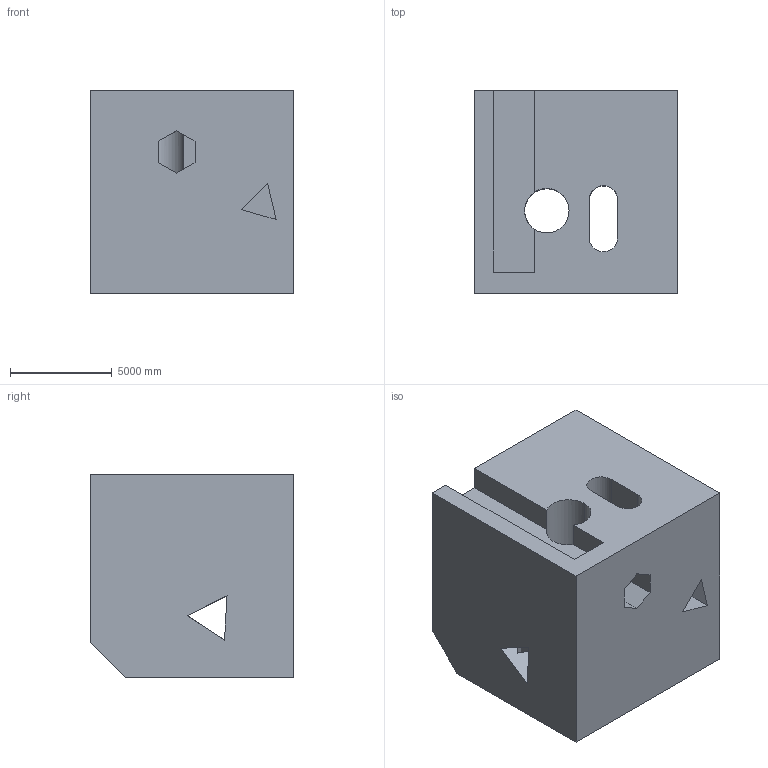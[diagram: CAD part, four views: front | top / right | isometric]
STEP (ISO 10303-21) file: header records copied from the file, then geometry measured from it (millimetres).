
FILE_DESCRIPTION (( 'STEP AP203' ), '1' );
FILE_NAME ('162.STEP', '2022-08-31T12:03:12', ( 'user' ), ( '' ), 'SwSTEP 2.0', 'SolidWorks 2021', '' );
FILE_SCHEMA (( 'CONFIG_CONTROL_DESIGN' ));
Length unit declared in the file: centimetre
Products named in the file (1): 162
Bounding box: 10000 x 10000 x 10000 mm (x, y, z)
Volume: 827573114370.4 mm3; surface area: 863371323.3 mm2
Topology: 1 solids, 1 shells, 48 faces, 159 edges, 106 vertices
Faces by surface type: plane 41, cylinder 7
Entity records: 2082 total; most frequent: CARTESIAN_POINT 648, ORIENTED_EDGE 318, DIRECTION 243, EDGE_CURVE 159, VECTOR 117, LINE 117, VERTEX_POINT 106, AXIS2_PLACEMENT_3D 63
